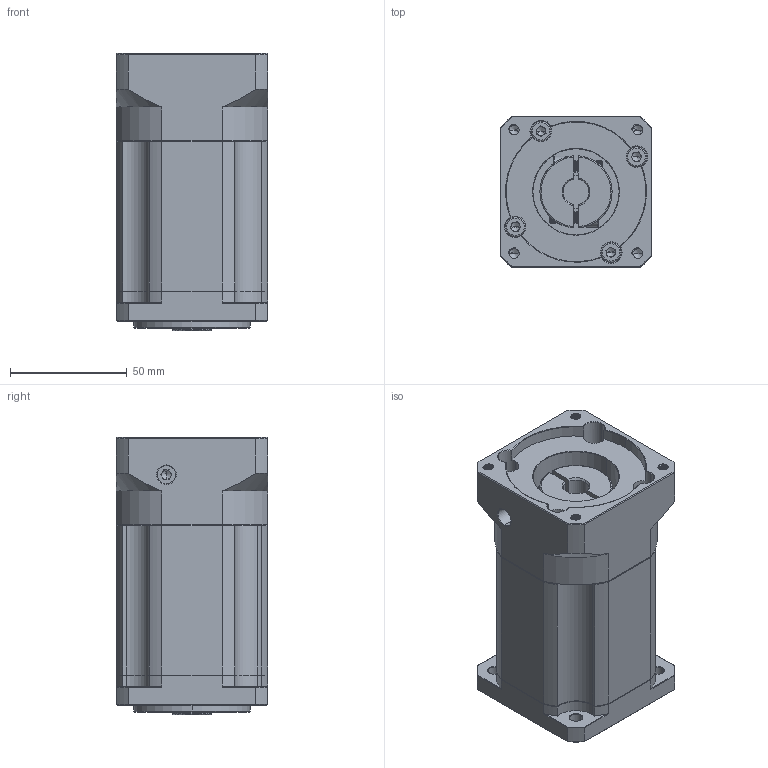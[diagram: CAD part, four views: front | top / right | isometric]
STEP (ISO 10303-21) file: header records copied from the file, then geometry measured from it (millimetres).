
FILE_DESCRIPTION (( 'STEP AP214' ), '1' );
FILE_NAME ('ZB060-K10-L3-P2-11-60-75-M5.step', '2023-08-16T07:12:41', ( '' ), ( '' ), 'SwSTEP 2.0', 'SolidWorks 2016', '' );
FILE_SCHEMA (( 'AUTOMOTIVE_DESIGN' ));
Length unit declared in the file: millimetre
Products named in the file (1): ZB060-K10-L3-P2-11-60-75-M5
Bounding box: 65 x 65 x 119 mm (x, y, z)
Volume: 379297.5 mm3; surface area: 61543.3 mm2
Topology: 6 solids, 6 shells, 2119 faces, 5709 edges, 3677 vertices
Faces by surface type: plane 1056, bspline 390, cylinder 357, cone 282, torus 34
Entity records: 112204 total; most frequent: CARTESIAN_POINT 38538, ORIENTED_EDGE 11362, DIRECTION 9044, EDGE_CURVE 5681, VERTEX_POINT 3677, VECTOR 3610, LINE 3610, AXIS2_PLACEMENT_3D 2717
